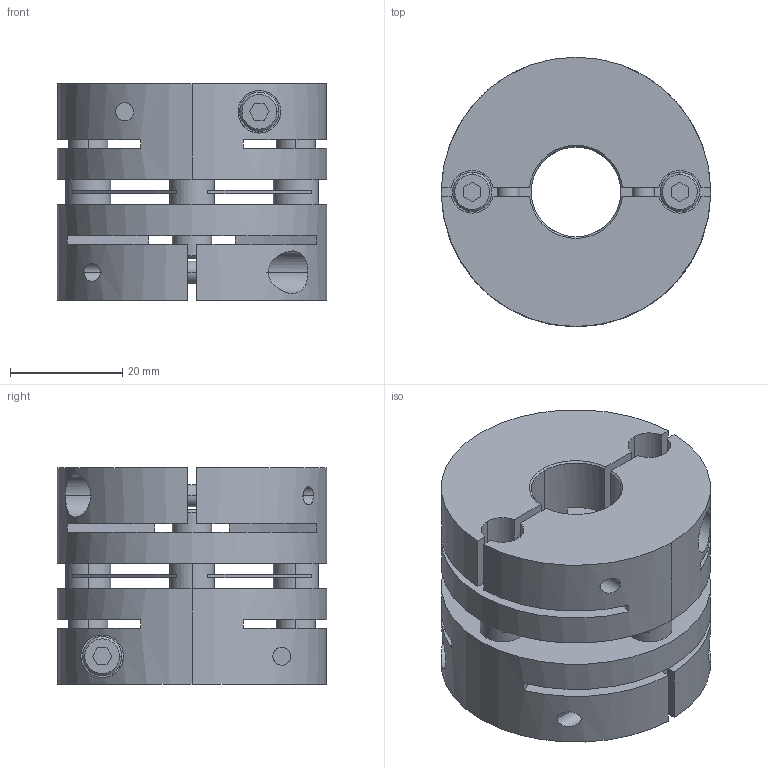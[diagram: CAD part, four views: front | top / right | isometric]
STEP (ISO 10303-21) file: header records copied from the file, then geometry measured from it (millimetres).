
FILE_DESCRIPTION((''),'2;1');
FILE_NAME('LAS-48C-16×18.stp','2013-06-12T09:41:12',(''),(''),'AutoCAD STEP 2000i','AutoCAD 2000i',', , ');
FILE_SCHEMA(('CONFIG_CONTROL_DESIGN'));
Length unit declared in the file: millimetre
Products named in the file (6): LAS-48C-12×19; 忣兜1; LA-4802-D19; LA-4802-D12-1; LA-4802-D12; LAS48-ITA
Assembly tree (5 placements, depth 2):
  LAS-48C-12×19
    忣兜1
    LA-4802-D19
    LA-4802-D12-1
    LA-4802-D12
    LAS48-ITA
Bounding box: 48 x 48 x 38.6 mm (x, y, z)
Volume: 48453.7 mm3; surface area: 22171.3 mm2
Topology: 1 solids, 1 shells, 224 faces, 600 edges, 392 vertices
Faces by surface type: plane 112, cylinder 84, cone 28
Entity records: 7841 total; most frequent: CARTESIAN_POINT 1878, DIRECTION 1256, ORIENTED_EDGE 1200, EDGE_CURVE 600, AXIS2_PLACEMENT_3D 458, VERTEX_POINT 392, VECTOR 340, LINE 340
